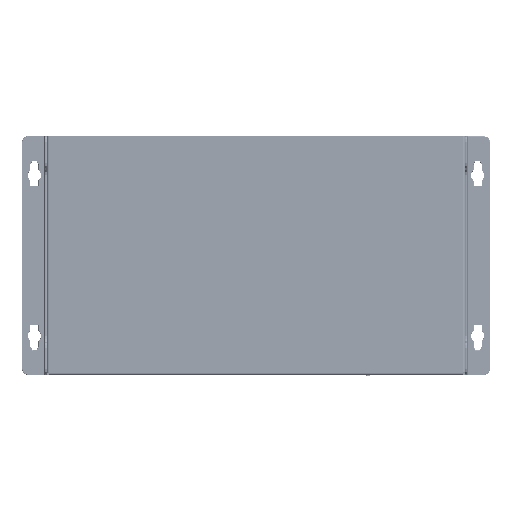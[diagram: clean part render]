
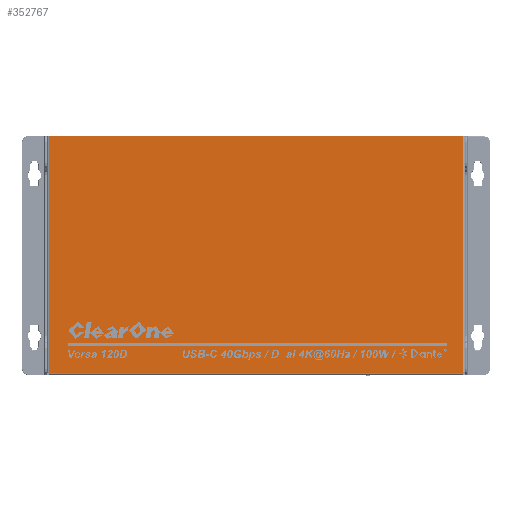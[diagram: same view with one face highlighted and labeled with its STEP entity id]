
A CAD part, top view. The second image highlights one B-rep face of the part: STEP entity #352767.
In plain terms, the highlighted planar face has unit normal (0, 0, 1).
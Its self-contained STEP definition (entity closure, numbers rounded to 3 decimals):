
#318665=DIRECTION('',(0.,1.,0.));
#318666=VECTOR('',#318665,0.3);
#318667=CARTESIAN_POINT('',(1.25,1.408,25.));
#318668=LINE('',#318667,#318666);
#319036=DIRECTION('',(-1.,0.,0.));
#319037=VECTOR('',#319036,207.5);
#319038=CARTESIAN_POINT('',(208.75,1.408,25.));
#319039=LINE('',#319038,#319037);
#319045=DIRECTION('',(1.,0.,0.));
#319046=VECTOR('',#319045,82.87);
#319047=CARTESIAN_POINT('',(1.,120.208,
25.));
#319048=LINE('',#319047,#319046);
#319062=DIRECTION('',(1.,0.,0.));
#319063=VECTOR('',#319062,42.261);
#319064=CARTESIAN_POINT('',(83.87,120.208,25.));
#319065=LINE('',#319064,#319063);
#320671=DIRECTION('',(-1.,0.,0.));
#320672=VECTOR('',#320671,0.25);
#320673=CARTESIAN_POINT('',(209.,1.708,25.));
#320674=LINE('',#320673,#320672);
#320679=DIRECTION('',(0.,-1.,0.));
#320680=VECTOR('',#320679,0.3);
#320681=CARTESIAN_POINT('',(208.75,1.708,25.));
#320682=LINE('',#320681,#320680);
#320955=DIRECTION('',(0.,-1.,0.));
#320956=VECTOR('',#320955,118.5);
#320957=CARTESIAN_POINT('',(209.,120.208,25.));
#320958=LINE('',#320957,#320956);
#320982=DIRECTION('',(1.,0.,0.));
#320983=VECTOR('',#320982,82.87);
#320984=CARTESIAN_POINT('',(126.13,120.208,25.));
#320985=LINE('',#320984,#320983);
#333234=DIRECTION('',(0.,1.,0.));
#333235=VECTOR('',#333234,118.5);
#333236=CARTESIAN_POINT('',(1.,1.708,
25.));
#333237=LINE('',#333236,#333235);
#344001=DIRECTION('',(-1.,0.,0.));
#344002=VECTOR('',#344001,0.25);
#344003=CARTESIAN_POINT('',(1.25,1.708,25.));
#344004=LINE('',#344003,#344002);
#344968=CARTESIAN_POINT('',(126.13,120.208,25.));
#344969=VERTEX_POINT('',#344968);
#344970=CARTESIAN_POINT('',(83.87,120.208,25.));
#344971=VERTEX_POINT('',#344970);
#351102=CARTESIAN_POINT('',(209.,120.208,25.));
#351103=CARTESIAN_POINT('',(209.,1.708,25.));
#351104=VERTEX_POINT('',#351102);
#351105=VERTEX_POINT('',#351103);
#351110=CARTESIAN_POINT('',(1.,1.708,
25.));
#351111=CARTESIAN_POINT('',(1.,120.208,
25.));
#351112=VERTEX_POINT('',#351110);
#351113=VERTEX_POINT('',#351111);
#351156=CARTESIAN_POINT('',(208.75,1.408,25.));
#351157=CARTESIAN_POINT('',(1.25,1.408,25.));
#351158=VERTEX_POINT('',#351156);
#351159=VERTEX_POINT('',#351157);
#351288=CARTESIAN_POINT('',(1.25,1.708,25.));
#351289=VERTEX_POINT('',#351288);
#351290=CARTESIAN_POINT('',(208.75,1.708,25.));
#351291=VERTEX_POINT('',#351290);
#352742=CARTESIAN_POINT('',(210.,120.408,25.));
#352743=DIRECTION('',(0.,0.,1.));
#352744=DIRECTION('',(1.,0.,0.));
#352745=AXIS2_PLACEMENT_3D('',#352742,#352743,#352744);
#352746=PLANE('',#352745);
#352748=ORIENTED_EDGE('',*,*,#352747,.T.);
#352750=ORIENTED_EDGE('',*,*,#352749,.T.);
#352752=ORIENTED_EDGE('',*,*,#352751,.T.);
#352754=ORIENTED_EDGE('',*,*,#352753,.T.);
#352756=ORIENTED_EDGE('',*,*,#352755,.T.);
#352758=ORIENTED_EDGE('',*,*,#352757,.T.);
#352759=ORIENTED_EDGE('',*,*,#352735,.T.);
#352760=ORIENTED_EDGE('',*,*,#352096,.T.);
#352762=ORIENTED_EDGE('',*,*,#352761,.T.);
#352764=ORIENTED_EDGE('',*,*,#352763,.T.);
#352765=EDGE_LOOP('',(#352748,#352750,#352752,#352754,#352756,#352758,#352759,
#352760,#352762,#352764));
#352766=FACE_OUTER_BOUND('',#352765,.F.);
#352767=ADVANCED_FACE('',(#352766),#352746,.T.);
#352096=EDGE_CURVE('',#351159,#351289,#318668,.T.);
#352735=EDGE_CURVE('',#351158,#351159,#319039,.T.);
#352747=EDGE_CURVE('',#351113,#344971,#319048,.T.);
#352749=EDGE_CURVE('',#344971,#344969,#319065,.T.);
#352751=EDGE_CURVE('',#344969,#351104,#320985,.T.);
#352753=EDGE_CURVE('',#351104,#351105,#320958,.T.);
#352755=EDGE_CURVE('',#351105,#351291,#320674,.T.);
#352757=EDGE_CURVE('',#351291,#351158,#320682,.T.);
#352761=EDGE_CURVE('',#351289,#351112,#344004,.T.);
#352763=EDGE_CURVE('',#351112,#351113,#333237,.T.);
